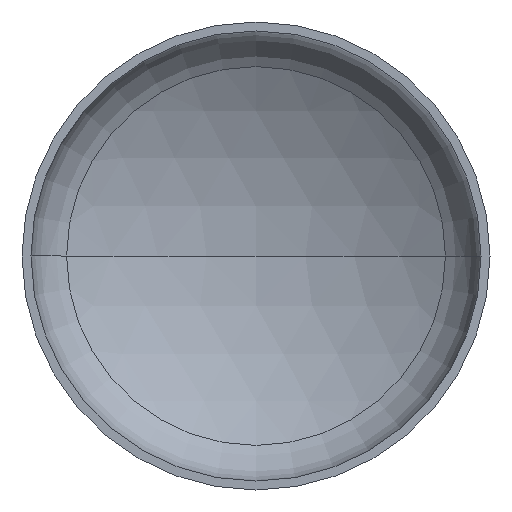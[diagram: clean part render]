
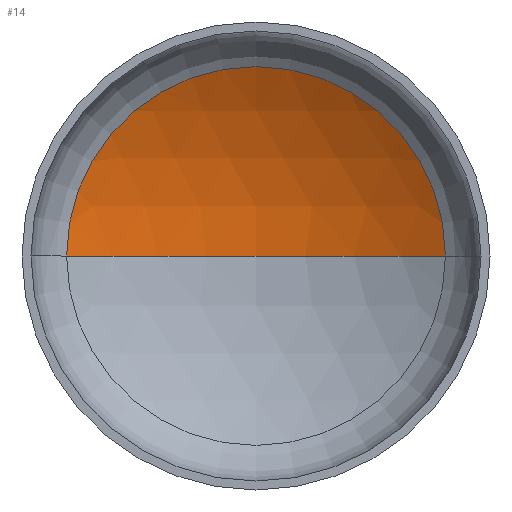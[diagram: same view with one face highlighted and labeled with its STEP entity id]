
A CAD part, front view. The second image highlights one B-rep face of the part: STEP entity #14.
In plain terms, the highlighted spherical face has radius 4000 mm.
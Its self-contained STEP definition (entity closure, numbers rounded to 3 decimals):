
#1 = AXIS2_PLACEMENT_3D ( 'NONE', #286, #107, #316 ) ;
#3 = AXIS2_PLACEMENT_3D ( 'NONE', #167, #370, #200 ) ;
#14 = ADVANCED_FACE ( 'NONE', ( #384 ), #49, .F. ) ;
#15 = CARTESIAN_POINT ( 'NONE',  ( 0., -2686.206, 0. ) ) ;
#18 = AXIS2_PLACEMENT_3D ( 'NONE', #125, #339, #160 ) ;
#22 = DIRECTION ( 'NONE',  ( 0., 0., -1. ) ) ;
#49 = SPHERICAL_SURFACE ( 'NONE', #54, 4000. ) ;
#51 = DIRECTION ( 'NONE',  ( -1., 0., 0. ) ) ;
#54 = AXIS2_PLACEMENT_3D ( 'NONE', #15, #22, #51 ) ;
#57 = CARTESIAN_POINT ( 'NONE',  ( 0., 1313.794, 0. ) ) ;
#88 = CIRCLE ( 'NONE', #18, 2023.529 ) ;
#91 = ORIENTED_EDGE ( 'NONE', *, *, #382, .F. ) ;
#95 = CARTESIAN_POINT ( 'NONE',  ( -2023.529, 764.204, 0. ) ) ;
#100 = VERTEX_POINT ( 'NONE', #214 ) ;
#107 = DIRECTION ( 'NONE',  ( 0., 0., 1. ) ) ;
#125 = CARTESIAN_POINT ( 'NONE',  ( 0., 764.204, 0. ) ) ;
#160 = DIRECTION ( 'NONE',  ( 1., 0., 0. ) ) ;
#167 = CARTESIAN_POINT ( 'NONE',  ( 0., -2686.206, 0. ) ) ;
#187 = EDGE_LOOP ( 'NONE', ( #91, #243, #397 ) ) ;
#200 = DIRECTION ( 'NONE',  ( -1., 0., 0. ) ) ;
#208 = VERTEX_POINT ( 'NONE', #57 ) ;
#214 = CARTESIAN_POINT ( 'NONE',  ( 2023.529, 764.204, 0. ) ) ;
#217 = VERTEX_POINT ( 'NONE', #95 ) ;
#227 = CIRCLE ( 'NONE', #3, 4000. ) ;
#243 = ORIENTED_EDGE ( 'NONE', *, *, #385, .T. ) ;
#286 = CARTESIAN_POINT ( 'NONE',  ( 0., -2686.206, 0. ) ) ;
#296 = CIRCLE ( 'NONE', #1, 4000. ) ;
#316 = DIRECTION ( 'NONE',  ( 1., 0., 0. ) ) ;
#328 = EDGE_CURVE ( 'NONE', #100, #217, #88, .T. ) ;
#339 = DIRECTION ( 'NONE',  ( 0., -1., 0. ) ) ;
#370 = DIRECTION ( 'NONE',  ( 0., 0., -1. ) ) ;
#382 = EDGE_CURVE ( 'NONE', #208, #217, #296, .T. ) ;
#384 = FACE_OUTER_BOUND ( 'NONE', #187, .T. ) ;
#385 = EDGE_CURVE ( 'NONE', #208, #100, #227, .T. ) ;
#397 = ORIENTED_EDGE ( 'NONE', *, *, #328, .T. ) ;
